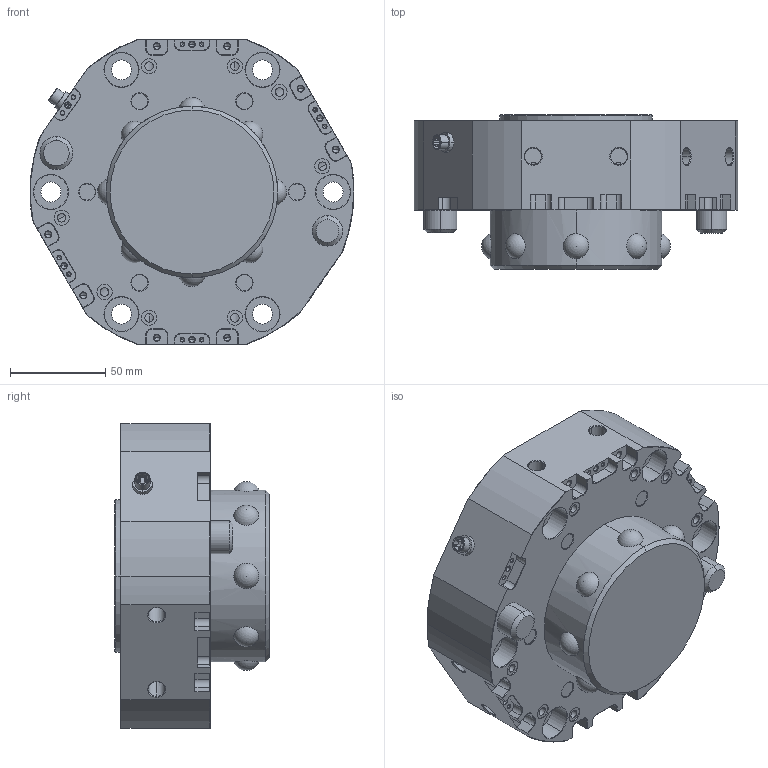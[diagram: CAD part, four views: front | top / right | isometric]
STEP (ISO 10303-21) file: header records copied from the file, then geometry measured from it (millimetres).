
FILE_DESCRIPTION (( 'STEP AP203' ), '1' );
FILE_NAME ('TSKP-M210-00主盘本体.STEP', '2021-08-12T09:31:33', ( '' ), ( '' ), 'SwSTEP 2.0', 'SolidWorks 2018', '' );
FILE_SCHEMA (( 'CONFIG_CONTROL_DESIGN' ));
Length unit declared in the file: millimetre
Products named in the file (1): TSKP-M210-00翋攫掛极
Bounding box: 170 x 81 x 160 mm (x, y, z)
Volume: 1170173.6 mm3; surface area: 118649 mm2
Topology: 1 solids, 9 shells, 830 faces, 1999 edges, 1216 vertices
Faces by surface type: plane 287, cylinder 278, cone 231, torus 26, sphere 8
Entity records: 24915 total; most frequent: CARTESIAN_POINT 5402, DIRECTION 4316, ORIENTED_EDGE 3834, EDGE_CURVE 1917, AXIS2_PLACEMENT_3D 1670, VERTEX_POINT 1202, VECTOR 976, LINE 976
